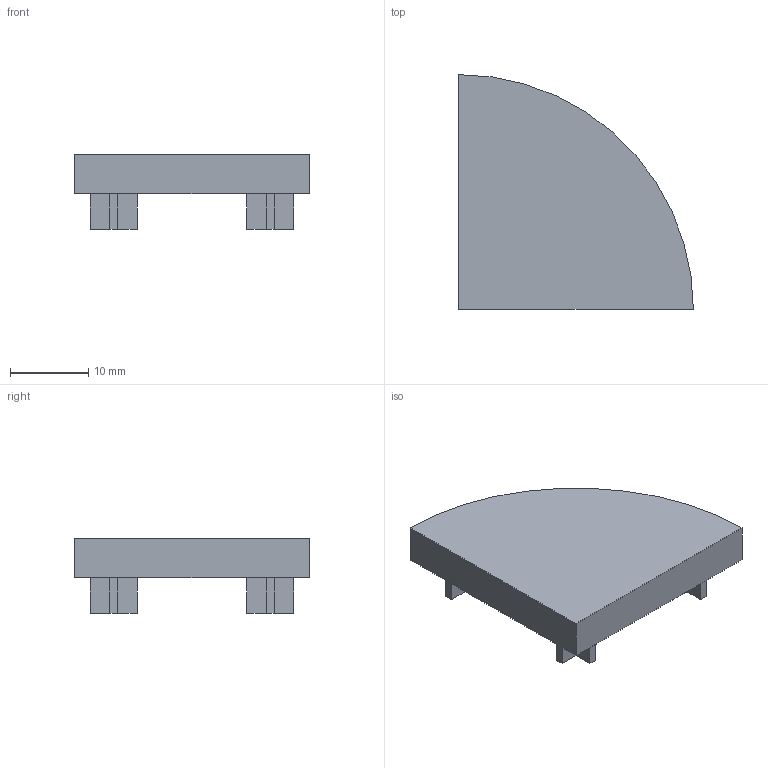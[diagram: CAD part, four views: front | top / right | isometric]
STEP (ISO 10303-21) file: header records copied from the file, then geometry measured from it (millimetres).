
FILE_DESCRIPTION(/* description */ ('Unknown'),/* implementation_level */ '2;1');
FILE_NAME(/* name */ 'CAP3030R',/* time_stamp */ '2026-08-31T14:37:18+08:00',/* author */ ('Unknown'),/* organization */ ('Unknown'),/* preprocessor_version */ 'ST-DEVELOPER v16.7',/* originating_system */ 'DEX',/* authorisation */ $);
FILE_SCHEMA (('AUTOMOTIVE_DESIGN {1 0 10303 214 3 1 1}'));
Length unit declared in the file: millimetre
Products named in the file (1): CAP
Bounding box: 30 x 30 x 9.5 mm (x, y, z)
Volume: 1400.7 mm3; surface area: 2959.4 mm2
Topology: 1 solids, 1 shells, 48 faces, 126 edges, 84 vertices
Faces by surface type: plane 46, cylinder 2
Entity records: 1484 total; most frequent: CARTESIAN_POINT 259, ORIENTED_EDGE 252, DIRECTION 228, EDGE_CURVE 126, LINE 122, VECTOR 122, VERTEX_POINT 84, AXIS2_PLACEMENT_3D 53
